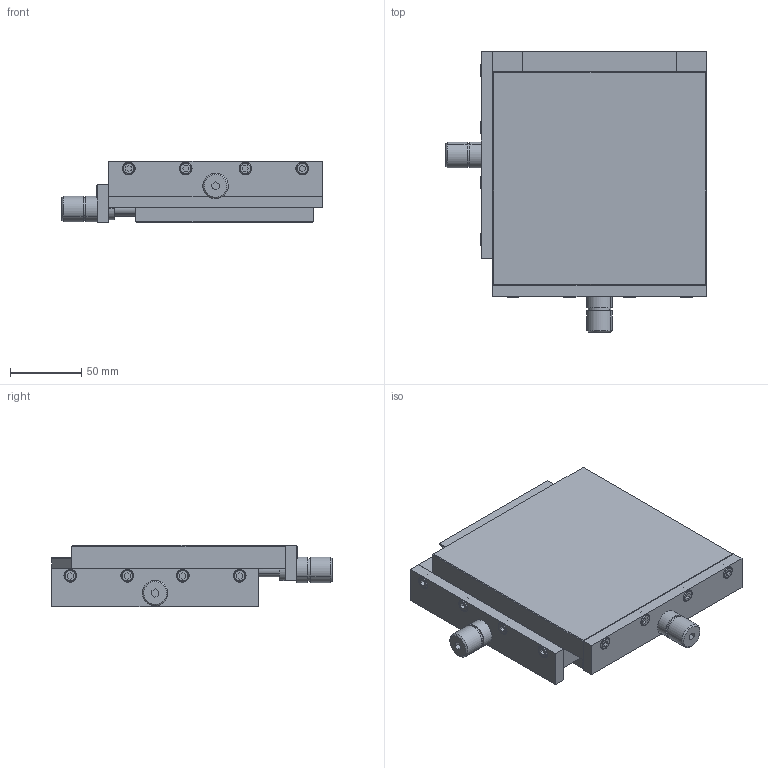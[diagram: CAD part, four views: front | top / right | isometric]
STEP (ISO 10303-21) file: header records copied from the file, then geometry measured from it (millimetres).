
FILE_DESCRIPTION(('STEP AP214'),'1');
FILE_NAME('tmp0.STP','2020-10-08T13:54:36',(' '),(' '),'Spatial InterOp 3D',' ',' ');
FILE_SCHEMA(('automotive_design'));
Length unit declared in the file: millimetre
Products named in the file (17): B150NA_StepAP203|NONE#DIN_912;NONE; B150NA_StepAP203|NONE#405.392.00;NONE; B150NA_StepAP203|NONE#403.390.00;NONE; B150NA_StepAP203|NONE#403.391.00;NONE; B150NA_StepAP203|NONE#405.391.00;NONE; B150NA_StepAP203|NONE#403.392.00;NONE; B150NA_StepAP203|NONE#405.393.00;NONE; B150NA_StepAP203|NONE#403.341.00;NONE
Bounding box: 183.1 x 197 x 43 mm (x, y, z)
Volume: 915006.4 mm3; surface area: 221127.6 mm2
Topology: 17 solids, 17 shells, 440 faces, 1028 edges, 644 vertices
Faces by surface type: plane 200, cylinder 168, cone 56, torus 16
Entity records: 16605 total; most frequent: CARTESIAN_POINT 2457, DIRECTION 2242, ORIENTED_EDGE 1992, EDGE_CURVE 996, AXIS2_PLACEMENT_3D 825, VERTEX_POINT 644, LINE 592, VECTOR 592
